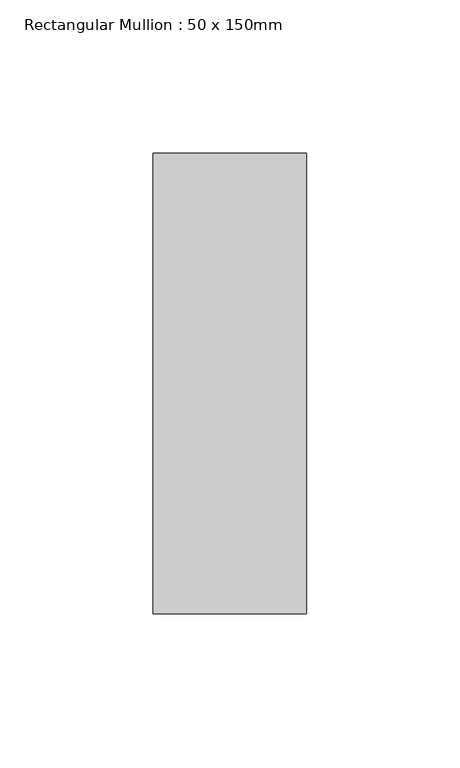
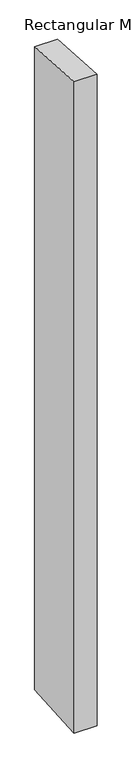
"""IFC4 building model written with IfcOpenShell, lengths in millimetres: member geometry, Rectangular Mullion : 50 x 150mm."""

from ifc_helpers import new_model, si_unit, origin, place, context, project, spatial, faceted_brep, source, transform, mapped, element, save


def rectangular_mullion_50_x_150mm_7cf9c824(model_context):
    return source(origin(), model_context, "Body", "Brep", [
        faceted_brep([(-50.0, 75.0, -4.9094729), (0.0, 75.0, -4.7407424), (0.0, 75.0, -1495.2632841), (-50.0, 75.0, -1495.0946968), (-50.0, -75.0, 4.5720119), (-50.0, -75.0, -1504.5681287), (0.0, -75.0, 4.7407424), (0.0, -75.0, -1504.7367159)], [[[0, 1, 2, 3]], [[4, 0, 3, 5]], [[6, 4, 5, 7]], [[1, 6, 7, 2]], [[1, 0, 4, 6]], [[2, 7, 5, 3]]]),
    ])


if __name__ == "__main__":
    model = new_model("IFC4")
    model_context = context("Model", 3, world=origin())
    ifc_project = project(units=[si_unit("LENGTHUNIT", "METRE", prefix="MILLI")], contexts=[model_context])
    site = spatial("IfcSite", under=ifc_project)
    building = spatial("IfcBuilding", under=site)
    placement = place(None, origin())
    rectangular_mullion_50_x_150mm_shape = rectangular_mullion_50_x_150mm_7cf9c824(model_context)
    element("IfcMember", 1, ObjectType="Rectangular Mullion : 50 x 150mm", at=placement, inside=building, context=model_context, shape_type="MappedRepresentation", body=[
        mapped(rectangular_mullion_50_x_150mm_shape, transform((0.0, 0.0, 0.0), x_axis=(1.0, 0.0, 0.0), y_axis=(0.0, 1.0, 0.0), z_axis=(0.0, 0.0, 1.0))),
    ])
    save(model, "model.ifc")
